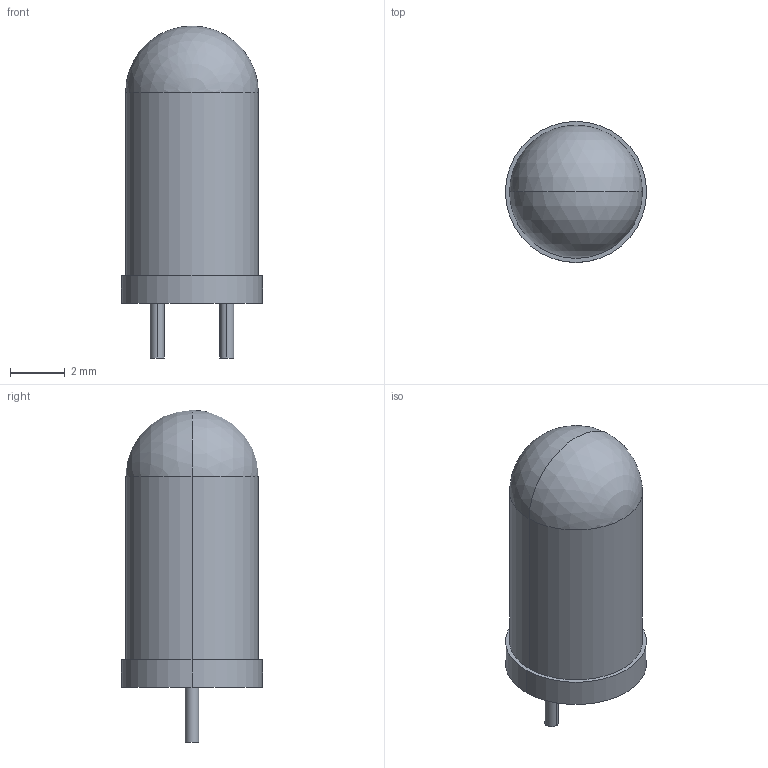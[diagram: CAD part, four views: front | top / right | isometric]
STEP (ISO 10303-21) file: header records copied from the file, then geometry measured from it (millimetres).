
FILE_DESCRIPTION (( 'STEP AP214' ), '1' );
FILE_NAME ( 'LEDRD254W50D515H1012.STEP', '2021-10-06T06:48:59', ( '' ), ( '' ), '', '©2017 PCB Libraries, Inc.', '' );
FILE_SCHEMA (( 'AUTOMOTIVE_DESIGN' ));
Length unit declared in the file: millimetre
Products named in the file (1): LEDRD254W50D515H1012
Bounding box: 5.15 x 5.15 x 12.12 mm (x, y, z)
Volume: 175.2 mm3; surface area: 185.4 mm2
Topology: 3 solids, 3 shells, 16 faces, 30 edges, 19 vertices
Faces by surface type: cylinder 8, plane 6, sphere 2
Entity records: 476 total; most frequent: DIRECTION 78, CARTESIAN_POINT 60, ORIENTED_EDGE 52, AXIS2_PLACEMENT_3D 35, EDGE_CURVE 26, STYLED_ITEM 20, PRESENTATION_LAYER_ASSIGNMENT 20, MECHANICAL_DESIGN_GEOMETRIC_PRESENTATION_REPRESENTATION 20
